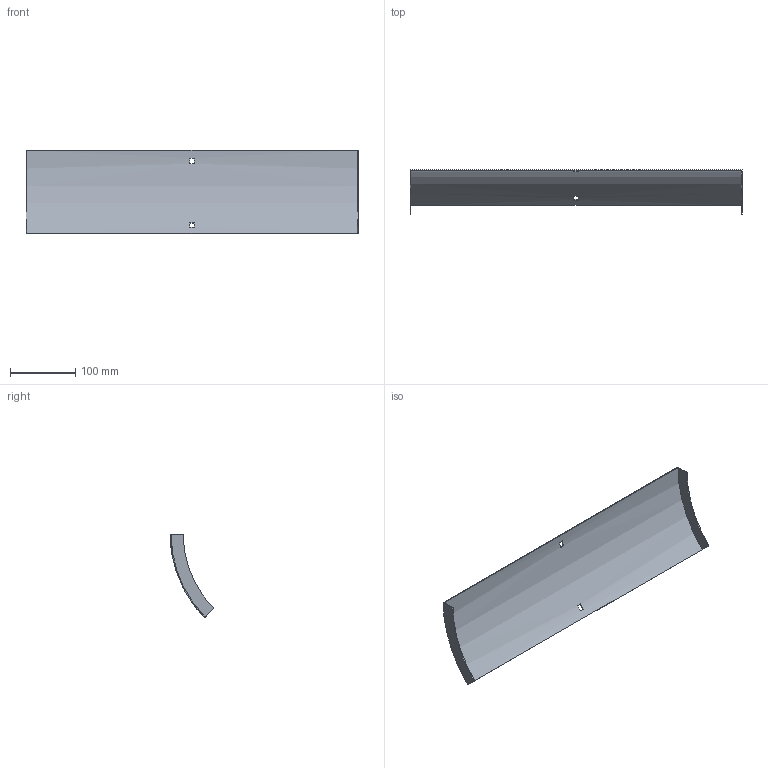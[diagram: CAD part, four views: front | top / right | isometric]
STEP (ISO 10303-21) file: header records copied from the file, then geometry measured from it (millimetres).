
FILE_DESCRIPTION (( 'STEP AP214' ), '1' );
FILE_NAME ('34N1C500.step', '2025-02-21T09:16:08', ( '' ), ( '' ), 'SwSTEP 2.0', 'SolidWorks 2023', '' );
FILE_SCHEMA (( 'AUTOMOTIVE_DESIGN' ));
Length unit declared in the file: millimetre
Products named in the file (1): 34N1C500
Bounding box: 507 x 67.01 x 127.63 mm (x, y, z)
Volume: 114586.9 mm3; surface area: 154887.9 mm2
Topology: 1 solids, 1 shells, 18 faces, 48 edges, 32 vertices
Faces by surface type: plane 14, cylinder 4
Entity records: 599 total; most frequent: DIRECTION 102, CARTESIAN_POINT 99, ORIENTED_EDGE 96, EDGE_CURVE 48, AXIS2_PLACEMENT_3D 35, VECTOR 32, LINE 32, VERTEX_POINT 32
